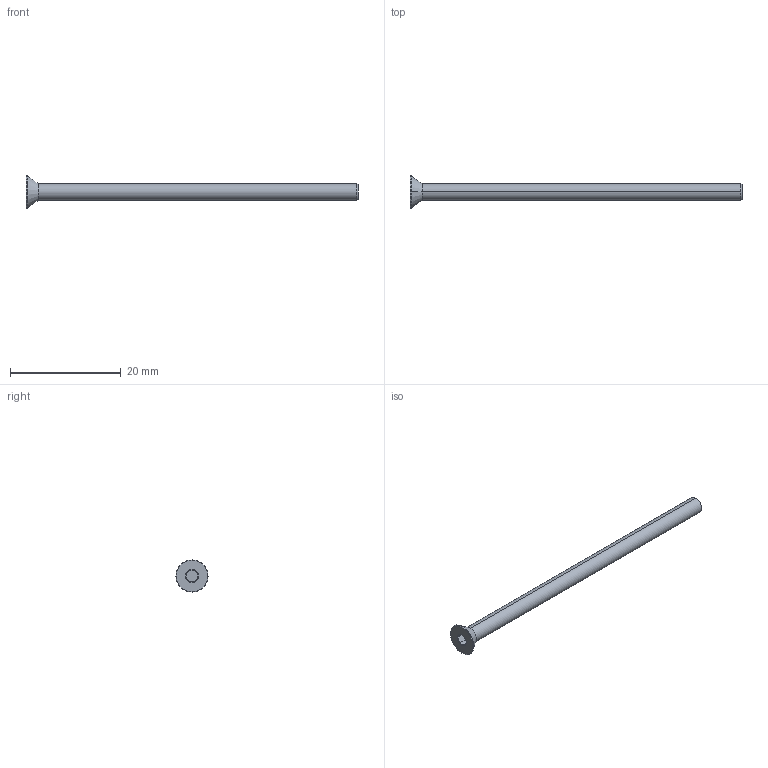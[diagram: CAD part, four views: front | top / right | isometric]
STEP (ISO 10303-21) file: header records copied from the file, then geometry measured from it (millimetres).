
FILE_DESCRIPTION (( 'STEP AP203' ), '1' );
FILE_NAME ('LGDB-304-M3x60.STEP', '2026-08-10T14:05:52', ( '' ), ( '' ), 'SwSTEP 2.0', 'SolidWorks 2020', '' );
FILE_SCHEMA (( 'CONFIG_CONTROL_DESIGN' ));
Length unit declared in the file: millimetre
Products named in the file (1): LGDB-304-M3x60
Bounding box: 60 x 5.8 x 5.8 mm (x, y, z)
Volume: 439.9 mm3; surface area: 624.1 mm2
Topology: 1 solids, 1 shells, 28 faces, 53 edges, 28 vertices
Faces by surface type: cone 11, plane 9, torus 4, cylinder 4
Entity records: 780 total; most frequent: CARTESIAN_POINT 141, DIRECTION 129, ORIENTED_EDGE 106, AXIS2_PLACEMENT_3D 54, EDGE_CURVE 53, EDGE_LOOP 29, VERTEX_POINT 28, FACE_OUTER_BOUND 28
